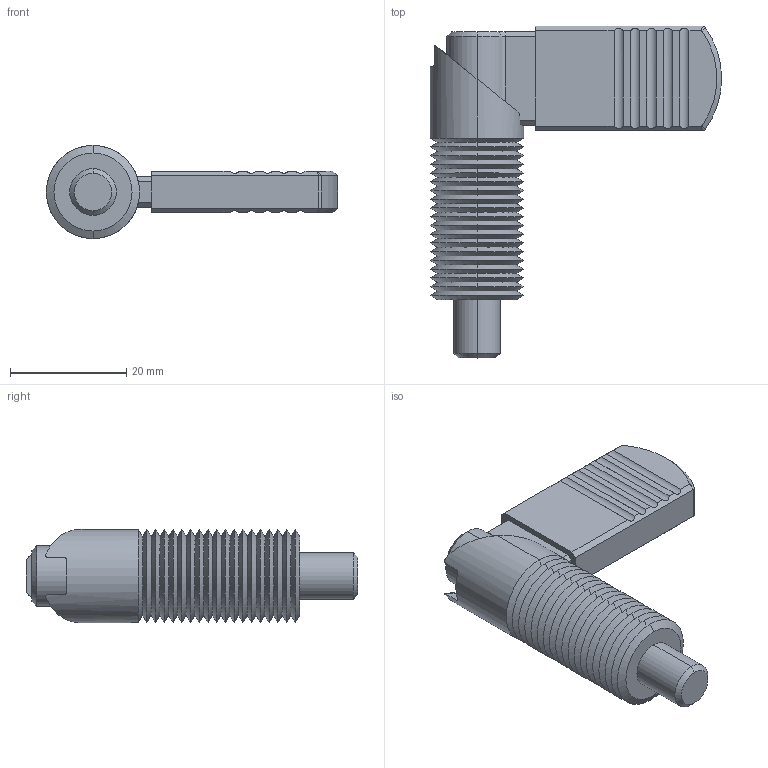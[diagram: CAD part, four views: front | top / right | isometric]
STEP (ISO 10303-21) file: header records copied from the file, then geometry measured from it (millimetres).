
FILE_DESCRIPTION (( 'STEP AP203' ), '1' );
FILE_NAME ('Default.step', '2016-02-10T17:19:07', ( 'User' ), ( '' ), 'SwSTEP 2.0', 'SolidWorks 2009', '' );
FILE_SCHEMA (( 'CONFIG_CONTROL_DESIGN' ));
Length unit declared in the file: millimetre
Products named in the file (4): Part1; Part3; Part2; Default
Assembly tree (3 placements, depth 2):
  Default
    Part1
    Part2
    Part3
Bounding box: 50 x 57 x 16 mm (x, y, z)
Volume: 9787.8 mm3; surface area: 10289.8 mm2
Topology: 3 solids, 3 shells, 204 faces, 481 edges, 287 vertices
Faces by surface type: cone 91, cylinder 56, plane 53, bspline 4
Entity records: 6306 total; most frequent: CARTESIAN_POINT 1386, ORIENTED_EDGE 962, DIRECTION 936, EDGE_CURVE 481, AXIS2_PLACEMENT_3D 339, VERTEX_POINT 287, VECTOR 258, LINE 258
